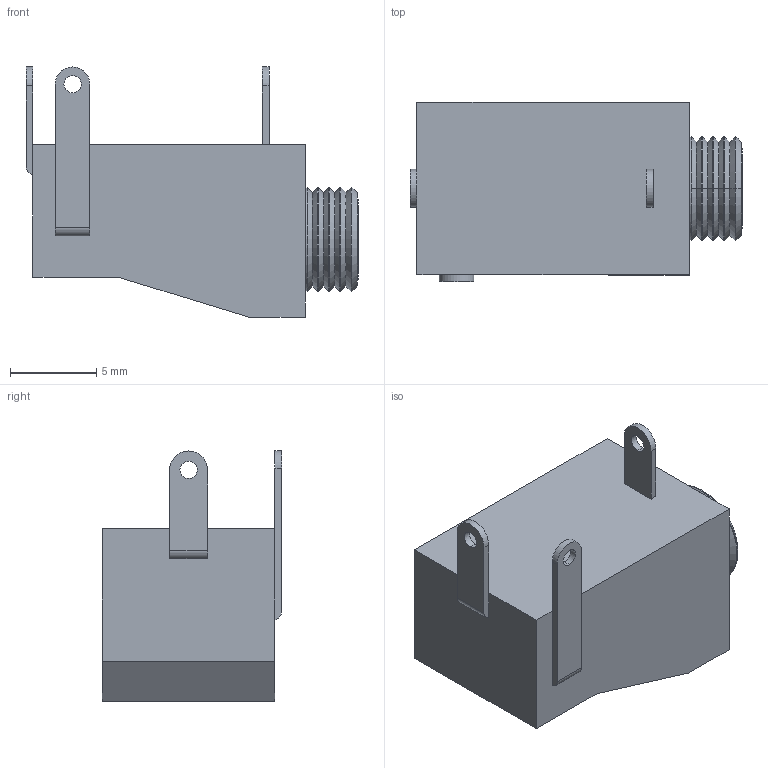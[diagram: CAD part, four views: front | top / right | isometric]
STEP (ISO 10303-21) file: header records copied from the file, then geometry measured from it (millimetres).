
FILE_DESCRIPTION (( 'STEP AP214' ), '1' );
FILE_NAME ('CUI_DEVICES_MJ-3536.step', '2019-10-20T22:27:07', ( '' ), ( '' ), 'SwSTEP 2.0', 'SolidWorks 2019', '' );
FILE_SCHEMA (( 'AUTOMOTIVE_DESIGN' ));
Length unit declared in the file: inch
Products named in the file (1): CUI_DEVICES_MJ-3536
Bounding box: 19.25 x 10.4 x 14.5 mm (x, y, z)
Volume: 1441.8 mm3; surface area: 947.5 mm2
Topology: 1 solids, 1 shells, 66 faces, 150 edges, 90 vertices
Faces by surface type: cylinder 25, plane 23, cone 18
Entity records: 2744 total; most frequent: DIRECTION 344, CARTESIAN_POINT 307, ORIENTED_EDGE 300, EDGE_CURVE 150, AXIS2_PLACEMENT_3D 127, LINE 90, VERTEX_POINT 90, VECTOR 90
